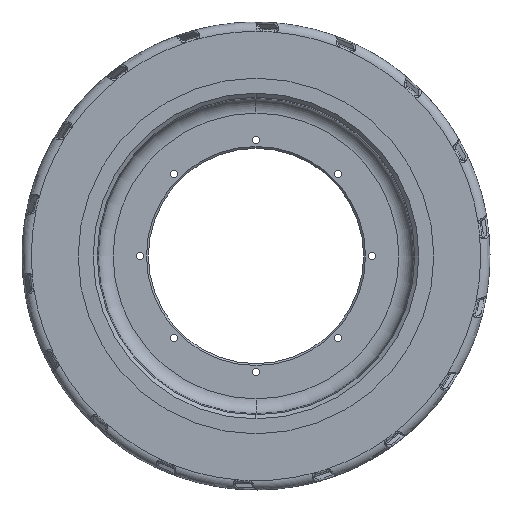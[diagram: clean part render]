
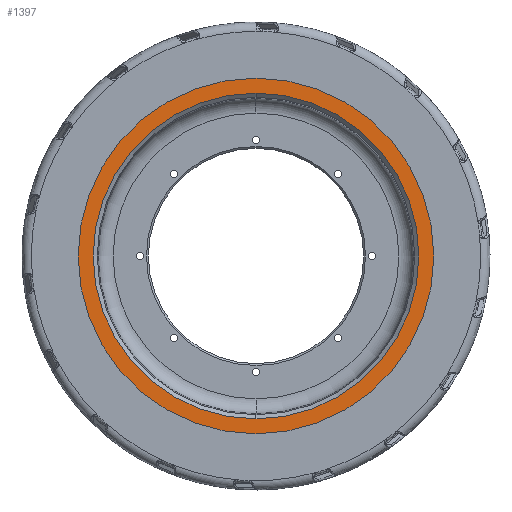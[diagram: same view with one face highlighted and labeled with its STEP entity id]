
A CAD part, left-side view. The second image highlights one B-rep face of the part: STEP entity #1397.
In plain terms, the highlighted planar face has unit normal (-1, 0, 0).
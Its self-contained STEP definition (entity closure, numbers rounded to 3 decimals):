
#255 = DIRECTION ( 'NONE',  ( 1., 0., 0. ) ) ;
#726 = VERTEX_POINT ( 'NONE', #1510 ) ;
#1397 = ADVANCED_FACE ( 'NONE', ( #9769, #35642 ), #28674, .F. ) ;
#1510 = CARTESIAN_POINT ( 'NONE',  ( -35., 0., -87. ) ) ;
#2393 = EDGE_LOOP ( 'NONE', ( #38332, #36373 ) ) ;
#3302 = CARTESIAN_POINT ( 'NONE',  ( -35., 0., 95. ) ) ;
#4021 = CARTESIAN_POINT ( 'NONE',  ( -35., 0., 87. ) ) ;
#5504 = DIRECTION ( 'NONE',  ( 0., 0., -1. ) ) ;
#6241 = EDGE_CURVE ( 'NONE', #726, #16324, #16219, .T. ) ;
#9769 = FACE_OUTER_BOUND ( 'NONE', #19844, .T. ) ;
#10416 = VERTEX_POINT ( 'NONE', #3302 ) ;
#10852 = CARTESIAN_POINT ( 'NONE',  ( -35., 0., -95. ) ) ;
#11535 = AXIS2_PLACEMENT_3D ( 'NONE', #19366, #19782, #19574 ) ;
#12717 = ORIENTED_EDGE ( 'NONE', *, *, #14400, .T. ) ;
#13221 = ORIENTED_EDGE ( 'NONE', *, *, #22898, .T. ) ;
#13473 = DIRECTION ( 'NONE',  ( 1., 0., 0. ) ) ;
#14400 = EDGE_CURVE ( 'NONE', #10416, #30656, #22444, .T. ) ;
#15374 = DIRECTION ( 'NONE',  ( 0., 0., -1. ) ) ;
#16219 = CIRCLE ( 'NONE', #31304, 87. ) ;
#16324 = VERTEX_POINT ( 'NONE', #4021 ) ;
#19180 = AXIS2_PLACEMENT_3D ( 'NONE', #29486, #13473, #22309 ) ;
#19366 = CARTESIAN_POINT ( 'NONE',  ( -35., 0., 0. ) ) ;
#19574 = DIRECTION ( 'NONE',  ( 0., 0., -1. ) ) ;
#19652 = EDGE_CURVE ( 'NONE', #16324, #726, #40328, .T. ) ;
#19782 = DIRECTION ( 'NONE',  ( -1., 0., 0. ) ) ;
#19844 = EDGE_LOOP ( 'NONE', ( #13221, #12717 ) ) ;
#21321 = CARTESIAN_POINT ( 'NONE',  ( -35., 0., 0. ) ) ;
#21737 = CARTESIAN_POINT ( 'NONE',  ( -35., 0., 0. ) ) ;
#22309 = DIRECTION ( 'NONE',  ( 0., 0., -1. ) ) ;
#22444 = CIRCLE ( 'NONE', #27039, 95. ) ;
#22898 = EDGE_CURVE ( 'NONE', #30656, #10416, #25308, .T. ) ;
#25308 = CIRCLE ( 'NONE', #11535, 95. ) ;
#27039 = AXIS2_PLACEMENT_3D ( 'NONE', #21737, #30786, #15374 ) ;
#28674 = PLANE ( 'NONE',  #19180 ) ;
#29486 = CARTESIAN_POINT ( 'NONE',  ( -35., 120., 0. ) ) ;
#30499 = AXIS2_PLACEMENT_3D ( 'NONE', #21321, #40220, #5504 ) ;
#30656 = VERTEX_POINT ( 'NONE', #10852 ) ;
#30786 = DIRECTION ( 'NONE',  ( -1., 0., 0. ) ) ;
#31304 = AXIS2_PLACEMENT_3D ( 'NONE', #31482, #255, #37847 ) ;
#31482 = CARTESIAN_POINT ( 'NONE',  ( -35., 0., 0. ) ) ;
#35642 = FACE_BOUND ( 'NONE', #2393, .T. ) ;
#36373 = ORIENTED_EDGE ( 'NONE', *, *, #6241, .T. ) ;
#37847 = DIRECTION ( 'NONE',  ( 0., 0., -1. ) ) ;
#38332 = ORIENTED_EDGE ( 'NONE', *, *, #19652, .T. ) ;
#40220 = DIRECTION ( 'NONE',  ( 1., 0., 0. ) ) ;
#40328 = CIRCLE ( 'NONE', #30499, 87. ) ;
